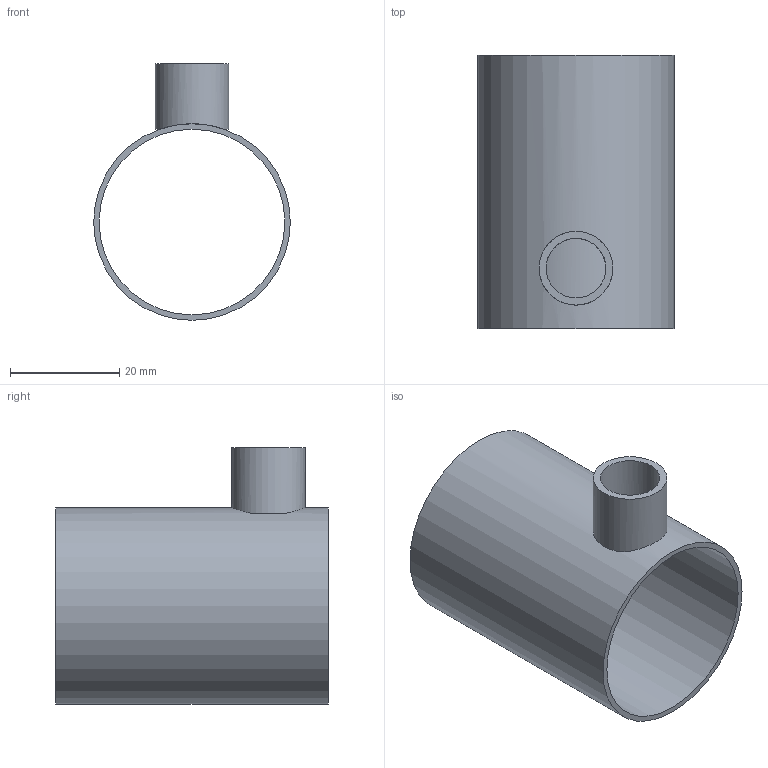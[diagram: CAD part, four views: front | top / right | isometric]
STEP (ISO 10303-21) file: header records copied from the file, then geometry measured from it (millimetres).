
FILE_DESCRIPTION(('Open CASCADE Model'),'2;1');
FILE_NAME('Open CASCADE Shape Model','2026-10-21T10:33:18',('Author'),( 'Open CASCADE'),'Open CASCADE STEP processor 7.9','Open CASCADE 7.9' ,'Unknown');
FILE_SCHEMA(('AUTOMOTIVE_DESIGN { 1 0 10303 214 1 1 1 1 }'));
Length unit declared in the file: millimetre
Products named in the file (1): Open CASCADE STEP translator 7.9 15
Bounding box: 36 x 50 x 47 mm (x, y, z)
Volume: 6067.7 mm3; surface area: 12112.2 mm2
Topology: 1 solids, 1 shells, 10 faces, 18 edges, 12 vertices
Faces by surface type: cylinder 5, plane 5
Full cylindrical faces by diameter (mm): 10.92 x1, 13.5 x1, 34 x1, 36 x1
Entity records: 891 total; most frequent: CARTESIAN_POINT 495, DIRECTION 72, ORIENTED_EDGE 36, PCURVE 36, DEFINITIONAL_REPRESENTATION 36, LINE 23, VECTOR 23, AXIS2_PLACEMENT_3D 20
